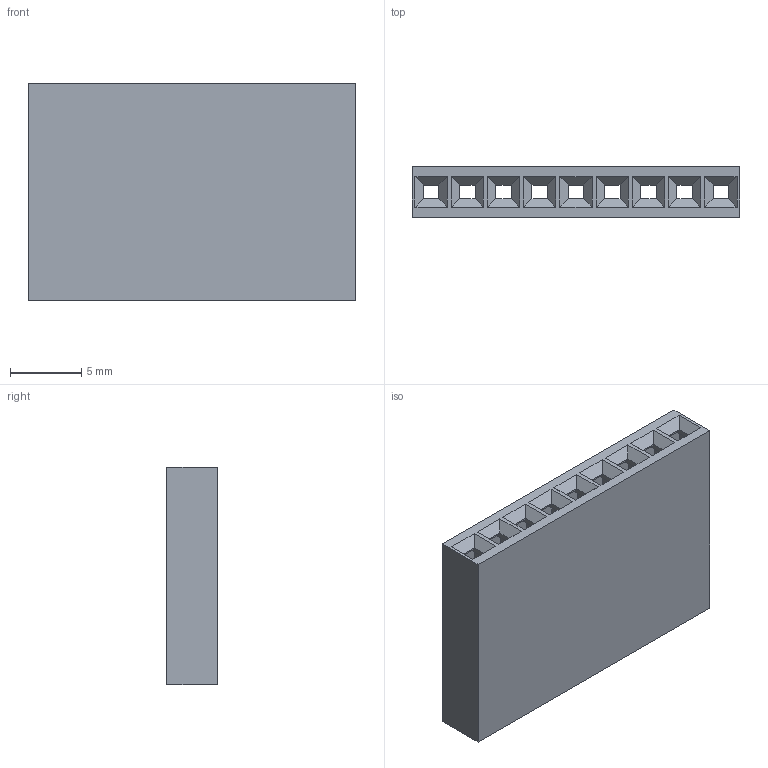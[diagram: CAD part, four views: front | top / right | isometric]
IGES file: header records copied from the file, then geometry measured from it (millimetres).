
Start section:  PTC IGES file: c-0087499-16-t-3d.igs
Global section: file name: c-0087499-16-t-3d.igs; native system: Pro/ENGINEER by Parametric Technology Corporation; preprocessor: 2005450; author: workeradm; organization: Unknown; date: 070905.003357; units: millimetre
Bounding box: 22.99 x 3.58 x 15.24 mm (x, y, z)
Surface area: 1906.4 mm2 (no closed solid volume)
Topology: 0 solids, 0 shells, 238 faces, 1368 edges, 1368 vertices
Faces by surface type: bspline 235, extrusion 2, revolution 1
